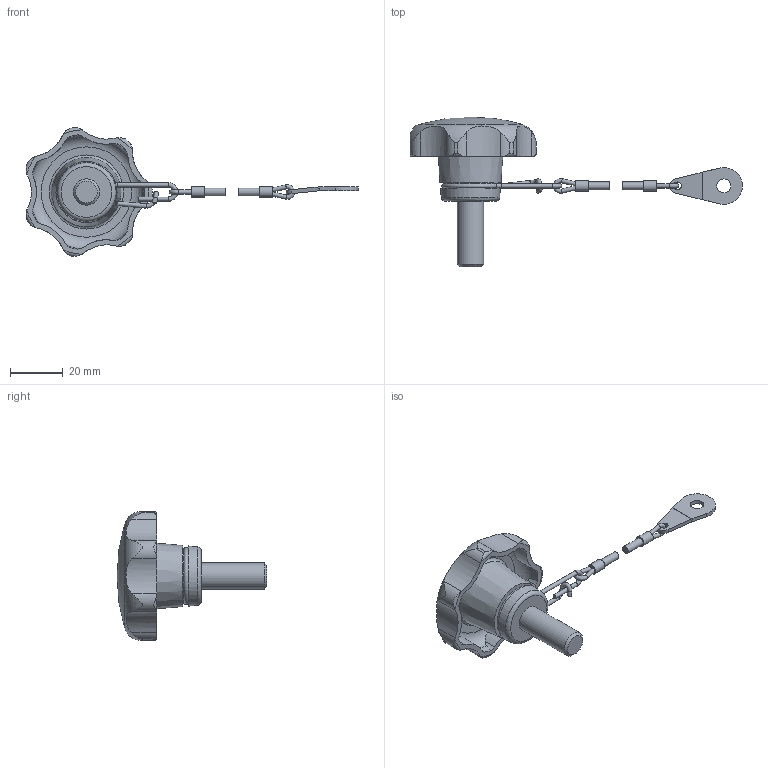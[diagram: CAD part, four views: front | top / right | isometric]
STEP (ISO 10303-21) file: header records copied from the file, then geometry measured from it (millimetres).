
FILE_DESCRIPTION( ( 'STEP AP203' ), '1' );
FILE_NAME( 'C:/Temp/Ganter_Step_05_03_2020/data/2_2/gn_6336_13/gn_6336_13_2/Star knob GN 6336.13-50-M10-25-H.stp', '2020-03-05T12:11:46', ( 'License CC BY-ND 4.0' ), ( 'CADENAS' ), ' ', 'PARTsolutions', ' ' );
FILE_SCHEMA( ( 'CONFIG_CONTROL_DESIGN' ) );
Length unit declared in the file: millimetre
Products named in the file (3): Star knob GN 6336.13-50-M10-25-H; _Star knob GN 6336.13-50-M10-25-H 6; _Star knob GN 111.2-200-14 h2
Assembly tree (2 placements, depth 2):
  Star knob GN 6336.13-50-M10-25-H
    _Star knob GN 6336.13-50-M10-25-H 6
    _Star knob GN 111.2-200-14 h2
Bounding box: 126.27 x 57 x 49 mm (x, y, z)
Volume: 25205.6 mm3; surface area: 10231.8 mm2
Topology: 2 solids, 2 shells, 133 faces, 361 edges, 233 vertices
Faces by surface type: cylinder 67, plane 34, torus 20, cone 11, sphere 1
Full cylindrical faces by diameter (mm): 1.6 x10, 3 x3, 4 x2, 5.3 x1, 10 x1, 18.5 x1
Entity records: 4840 total; most frequent: CARTESIAN_POINT 1623, DIRECTION 650, ORIENTED_EDGE 612, EDGE_CURVE 306, AXIS2_PLACEMENT_3D 280, VERTEX_POINT 221, EDGE_LOOP 184, FACE_OUTER_BOUND 163
